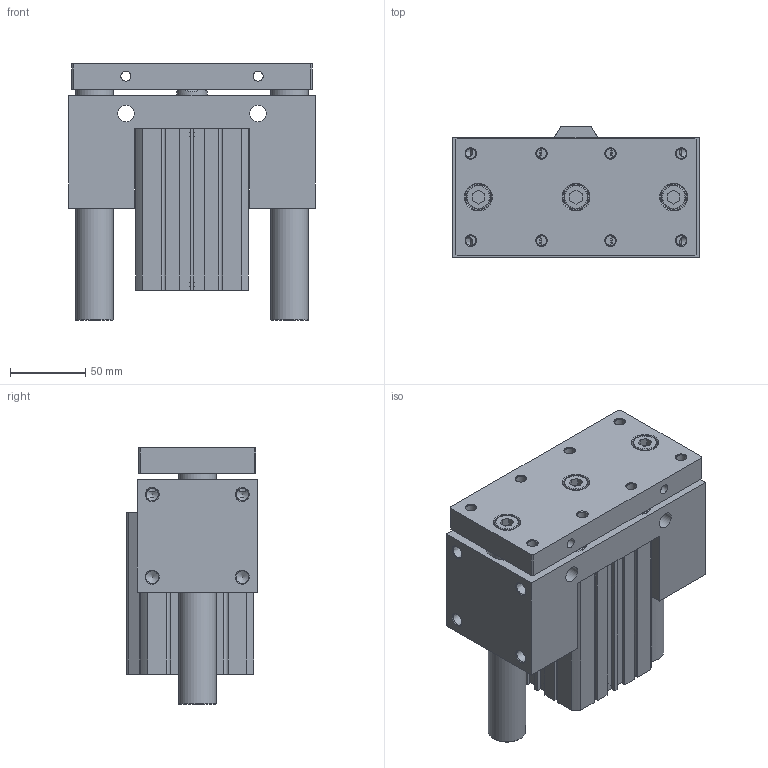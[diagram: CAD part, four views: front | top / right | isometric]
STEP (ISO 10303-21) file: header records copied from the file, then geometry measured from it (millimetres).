
FILE_DESCRIPTION((''),'2;1');
FILE_NAME('I:\3D電子目錄\氣缸\JCB\JCB\JCB63\JCB63x75.stp','2007-09-01T15:19:13',('Administrator'),(''),'Autodesk Inventor 11','Autodesk Inventor 11','');
FILE_SCHEMA(('AUTOMOTIVE_DESIGN { 1 0 10303 214 1 1 1 1 }'));
Length unit declared in the file: millimetre
Products named in the file (1): JCB63
Bounding box: 164 x 87 x 170.5 mm (x, y, z)
Volume: 1453388.3 mm3; surface area: 220801.7 mm2
Topology: 3 solids, 5 shells, 343 faces, 829 edges, 538 vertices
Faces by surface type: plane 186, cylinder 62, cone 47, bspline 40, torus 8
Full cylindrical faces by diameter (mm): 3 x2, 6.8 x4, 8.376 x4, 11 x8, 13 x4, 14 x4, 16 x3, 17.5 x3, 20 x1, 21 x1, 25 x2, 28 x2, 40 x1, 47 x1, 65 x4, 68 x2
Entity records: 10008 total; most frequent: CARTESIAN_POINT 2670, DIRECTION 1474, ORIENTED_EDGE 1320, EDGE_CURVE 660, EDGE_LOOP 554, AXIS2_PLACEMENT_3D 532, VERTEX_POINT 498, VECTOR 410
